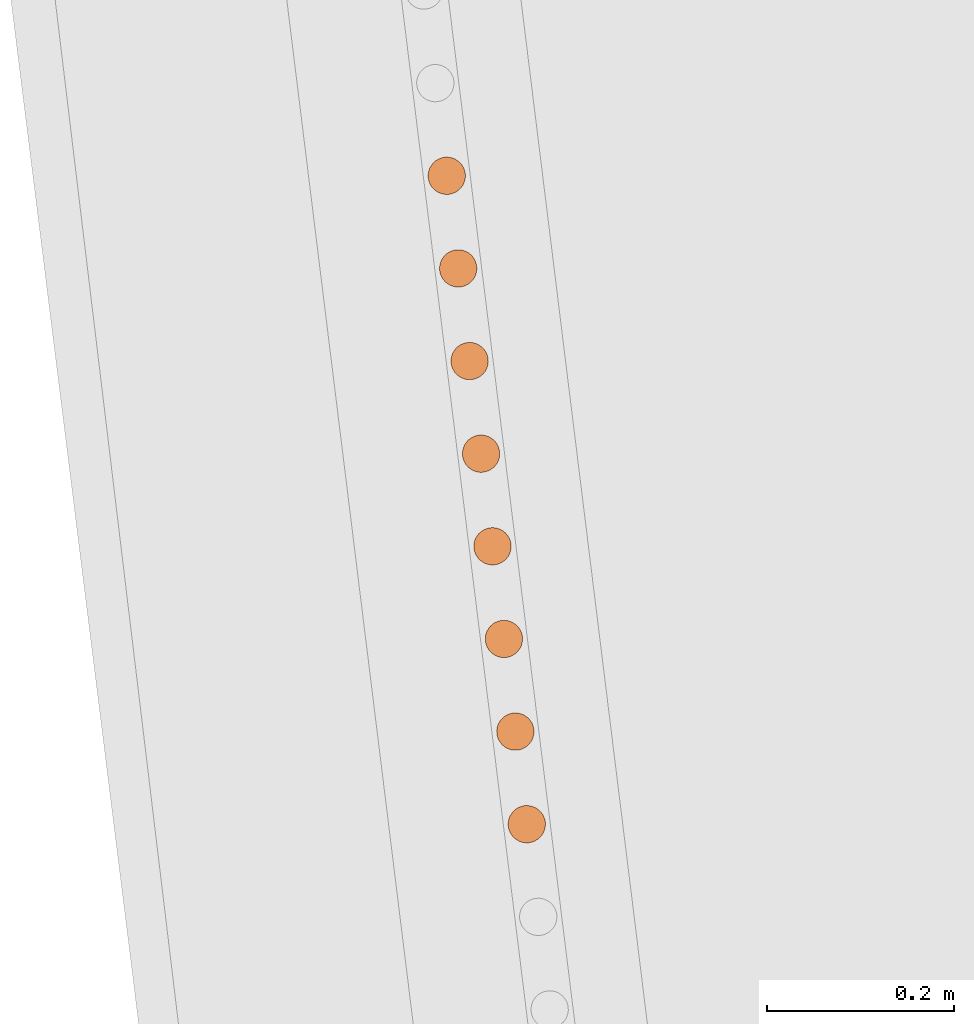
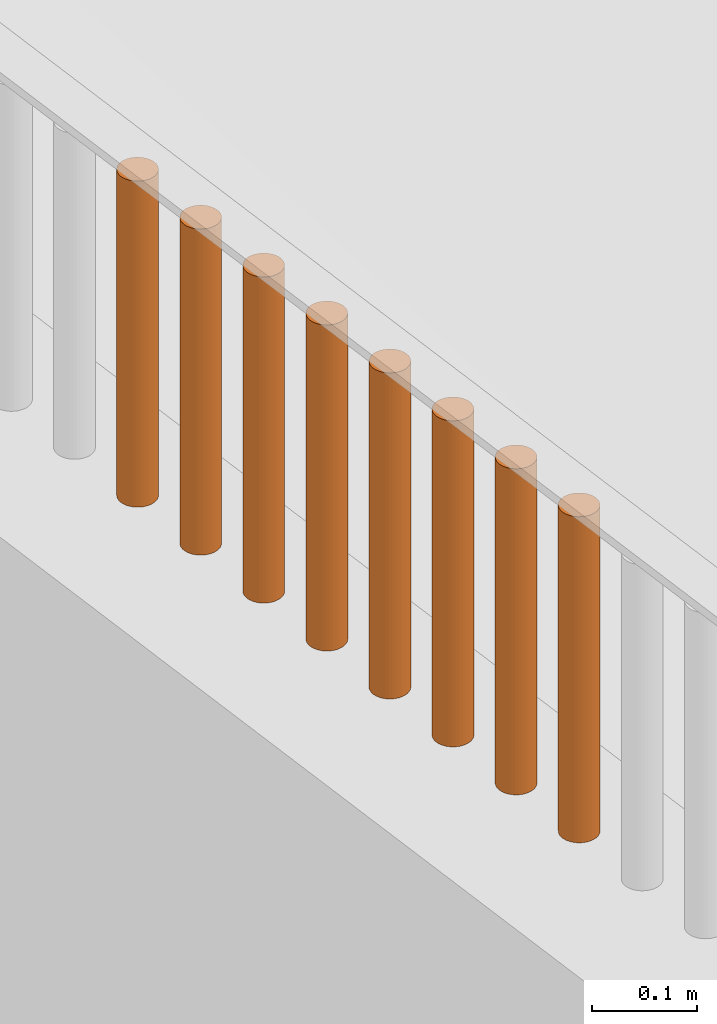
# One storey, part 63 of 1809: 8 proxies, 1 element without a shape of its own.
"""IFC2X3 building model written with IfcOpenShell, lengths in millimetres."""

import ifcopenshell
import ifcopenshell.guid

model = None  # the IFC model being written
_history = None  # IfcOwnerHistory: only IFC2X3 demands one
_inside = {}  # id of a spatial element -> (the spatial element, [elements in it])
_under = {}  # id of a project, library or spatial element -> (it, [spatial elements below it])
_declared = {}  # id of a project -> (the project, [libraries it declares])
_typed = {}  # id of a type object -> (the type object, [elements of that type])
_made_of = {}  # id of a material, layer set ... -> (it, [elements and type objects made of it])


def new_model(schema):
    """Start an empty IFC model of exactly this schema.

    Asked for "IFC4X3", IfcOpenShell would pick the latest addendum, in which some entities
    have other attributes; the version numbers below select the first issue.
    IFC2X3 requires an IfcOwnerHistory on every rooted entity: one is made here for all.
    """
    global model, _history
    if schema == "IFC4X3":
        model = ifcopenshell.file(schema_version=(4, 3, 0, 0))
    else:
        model = ifcopenshell.file(schema=schema)
    _inside.clear()
    _under.clear()
    _declared.clear()
    _typed.clear()
    _made_of.clear()
    _history = None
    if model.schema == "IFC2X3":
        org = make("IfcOrganization", Name="unknown")
        user = make(
            "IfcPersonAndOrganization",
            ThePerson=make("IfcPerson", FamilyName="unknown"),
            TheOrganization=org,
        )
        app = make(
            "IfcApplication",
            ApplicationDeveloper=org,
            Version="unknown",
            ApplicationFullName="unknown",
            ApplicationIdentifier="unknown",
        )
        _history = make(
            "IfcOwnerHistory",
            OwningUser=user,
            OwningApplication=app,
            ChangeAction="ADDED",
            CreationDate=0,
        )
    return model


def make(cls, **values):
    """One entity of the class cls with the attributes given. An attribute that is None is left unset."""
    return model.create_entity(
        cls, **{name: value for name, value in values.items() if value is not None}
    )


def entity(cls, *values):
    """Any entity or typed value of the class cls, its attributes in the order of the schema. None: left unset."""
    e = model.create_entity(cls)
    for i, value in enumerate(values):
        if value is not None:
            e[i] = value
    return e


def rooted(cls, **values):
    """An entity with a GlobalId (a new one), such as an element, a storey or a relation."""
    return make(cls, GlobalId=ifcopenshell.guid.new(), OwnerHistory=_history, **values)


def si_unit(unit_type, name, prefix=None):
    """IfcSIUnit, for example si_unit("LENGTHUNIT", "METRE", prefix="MILLI")."""
    return make("IfcSIUnit", UnitType=unit_type, Prefix=prefix, Name=name)


def converted_unit(unit_type, name, factor, base, dimensions=None, offset=None):
    """IfcConversionBasedUnit, such as the inch: factor (a typed value) times the base unit."""
    return make(
        "IfcConversionBasedUnit"
        if offset is None
        else "IfcConversionBasedUnitWithOffset",
        ConversionOffset=offset,
        Dimensions=None
        if dimensions is None
        else entity("IfcDimensionalExponents", *dimensions),
        UnitType=unit_type,
        Name=name,
        ConversionFactor=make(
            "IfcMeasureWithUnit", ValueComponent=factor, UnitComponent=base
        ),
    )


def derived_unit(unit_type, elements):
    """IfcDerivedUnit: a product of units, each with its exponent."""
    return make(
        "IfcDerivedUnit",
        Elements=[
            make("IfcDerivedUnitElement", Unit=unit, Exponent=power)
            for unit, power in elements
        ],
        UnitType=unit_type,
    )


def money_unit(currency):
    """IfcMonetaryUnit."""
    return make("IfcMonetaryUnit", Currency=currency)


def assignment(units):
    """IfcUnitAssignment: the units of a project."""
    return None if units is None else make("IfcUnitAssignment", Units=units)


def point(xyz):
    """IfcCartesianPoint."""
    return None if xyz is None else make("IfcCartesianPoint", Coordinates=xyz)


def direction(xyz):
    """IfcDirection."""
    return None if xyz is None else make("IfcDirection", DirectionRatios=xyz)


def frame(location, z_axis=None, x_axis=None):
    """IfcAxis2Placement3D, a coordinate frame: its origin and axes. An axis left out is left unset."""
    return make(
        "IfcAxis2Placement3D",
        Location=point(location),
        Axis=direction(z_axis),
        RefDirection=direction(x_axis),
    )


def origin_with_axes():
    """The frame at (0, 0, 0) with the z axis (0, 0, 1) and the x axis (1, 0, 0) written out."""
    return frame((0.0, 0.0, 0.0), z_axis=(0.0, 0.0, 1.0), x_axis=(1.0, 0.0, 0.0))


def place(relative_to, where):
    """IfcLocalPlacement: puts the frame where relative to a parent placement (None: the world)."""
    return make(
        "IfcLocalPlacement", PlacementRelTo=relative_to, RelativePlacement=where
    )


def context(
    kind, dimensions, precision=None, world=None, true_north=None, identifier=None
):
    """IfcGeometricRepresentationContext, for example the 3D "Model" context."""
    return make(
        "IfcGeometricRepresentationContext",
        ContextIdentifier=identifier,
        ContextType=kind,
        CoordinateSpaceDimension=dimensions,
        Precision=precision,
        WorldCoordinateSystem=world,
        TrueNorth=true_north,
    )


def subcontext(parent, identifier, kind, view, scale=None):
    """IfcGeometricRepresentationSubContext, for example "Body" below "Model"."""
    return make(
        "IfcGeometricRepresentationSubContext",
        ContextIdentifier=identifier,
        ContextType=kind,
        ParentContext=parent,
        TargetScale=scale,
        TargetView=view,
    )


def project(units=None, contexts=None):
    """IfcProject with its units and contexts."""
    return rooted(
        "IfcProject",
        Name="project",
        RepresentationContexts=contexts,
        UnitsInContext=assignment(units),
    )


def spatial(cls, under=None, at=None, **own):
    """A site, building, storey or space (cls), placed at a placement, below another one or the project."""
    s = rooted(cls, ObjectPlacement=at, **own)
    if under is not None:
        _under.setdefault(under.id(), (under, []))[1].append(s)
    return s


def faces_of(points, faces, orient=None, outer=None):
    """IfcFace entities. A face is a list of loops; a loop is a list of indices into points, from 0.

    orient and outer hold one flag for each loop. By default every Orientation is true, the
    first loop of a face is its IfcFaceOuterBound and the others are IfcFaceBound.
    """
    made = []
    for i, loops in enumerate(faces):
        bounds = []
        for j, loop in enumerate(loops):
            is_outer = j == 0 if outer is None else outer[i][j]
            bounds.append(
                make(
                    "IfcFaceOuterBound" if is_outer else "IfcFaceBound",
                    Bound=make("IfcPolyLoop", Polygon=[points[k] for k in loop]),
                    Orientation=True if orient is None else orient[i][j],
                )
            )
        made.append(make("IfcFace", Bounds=bounds))
    return made


def faceted_brep(points, faces, orient=None, outer=None, voids=None):
    """IfcFacetedBrep: a solid bounded by flat faces; with voids (closed shells), ...WithVoids."""
    shared = [point(p) for p in points]
    hull = make("IfcClosedShell", CfsFaces=faces_of(shared, faces, orient, outer))
    if voids is None:
        return make("IfcFacetedBrep", Outer=hull)
    return make(
        "IfcFacetedBrepWithVoids",
        Outer=hull,
        Voids=[
            make(cls, CfsFaces=faces_of(shared, fs, o, b)) for cls, fs, o, b in voids
        ],
    )


def shape(context_of_items, identifier, shape_type, items):
    """IfcShapeRepresentation: the items that make up one representation, for example the "Body"."""
    return make(
        "IfcShapeRepresentation",
        ContextOfItems=context_of_items,
        RepresentationIdentifier=identifier,
        RepresentationType=shape_type,
        Items=items,
    )


def source(mapping_origin, context_of_items, identifier, shape_type, items):
    """IfcRepresentationMap: a shape defined once, which mapped items show again and again."""
    return make(
        "IfcRepresentationMap",
        MappingOrigin=mapping_origin,
        MappedRepresentation=shape(context_of_items, identifier, shape_type, items),
    )


def transform(
    local_origin,
    x_axis=None,
    y_axis=None,
    z_axis=None,
    scale=None,
    scale2=None,
    scale3=None,
    uniform=True,
):
    """IfcCartesianTransformationOperator3D, or its non-uniform kind. x_axis, y_axis, z_axis: its Axis1, 2, 3."""
    if uniform:
        return make(
            "IfcCartesianTransformationOperator3D",
            Axis1=direction(x_axis),
            Axis2=direction(y_axis),
            LocalOrigin=point(local_origin),
            Scale=scale,
            Axis3=direction(z_axis),
        )
    return make(
        "IfcCartesianTransformationOperator3DnonUniform",
        Axis1=direction(x_axis),
        Axis2=direction(y_axis),
        LocalOrigin=point(local_origin),
        Scale=scale,
        Axis3=direction(z_axis),
        Scale2=scale2,
        Scale3=scale3,
    )


def mapped(mapping_source, mapping_target):
    """IfcMappedItem: shows the shape of a source again, moved by a transform."""
    return make(
        "IfcMappedItem", MappingSource=mapping_source, MappingTarget=mapping_target
    )


def material(Name=None, Category=None):
    """IfcMaterial."""
    return make("IfcMaterial", Name=Name, Category=Category)


def made_of(thing, what):
    """Note that an element or type object is made of a material, layer set ...; save() writes the relation."""
    if what is not None:
        _made_of.setdefault(what.id(), (what, []))[1].append(thing)
    return thing


def type_object(cls, material=None, **own):
    """A type object (cls), such as IfcWallType, which elements share."""
    return made_of(rooted(cls, **own), material)


def element(
    cls,
    number,
    at=None,
    inside=None,
    cuts=None,
    type_object=None,
    material=None,
    context=None,
    identifier="Body",
    shape_type=None,
    held_by="IfcProductDefinitionShape",
    body=None,
    shapes=None,
    **own,
):
    """One element of the class cls, such as IfcWall. Its Tag is "e" and its number.

    at: its placement. inside: the storey or other place that contains it. cuts: it is an
    opening in that element (IfcRelVoidsElement). A single representation is given by context,
    identifier, shape_type and body (its items); several are given by shapes. held_by: the class
    of the entity that holds the representations. save() writes the other relations.
    """
    e = rooted(cls, Tag="e%d" % number, ObjectPlacement=at, **own)
    if body is not None:
        shapes = [shape(context, identifier, shape_type, body)]
    if shapes is not None:
        e.Representation = make(held_by, Representations=shapes)
    if inside is not None:
        _inside.setdefault(inside.id(), (inside, []))[1].append(e)
    if cuts is not None:
        rooted(
            "IfcRelVoidsElement", RelatingBuildingElement=cuts, RelatedOpeningElement=e
        )
    if type_object is not None:
        _typed.setdefault(type_object.id(), (type_object, []))[1].append(e)
    return made_of(e, material)


def aggregate(whole, parts):
    """IfcRelAggregates: a whole, such as a stair, and the parts it consists of."""
    return rooted("IfcRelAggregates", RelatingObject=whole, RelatedObjects=parts)


def save(model, path):
    """Write the relations noted so far, then the file.

    IfcRelAggregates (storeys below a building ...), IfcRelContainedInSpatialStructure (elements
    in a storey), IfcRelDefinesByType, IfcRelAssociatesMaterial and IfcRelDeclares: one each for
    every whole, place, type object, material and project.
    """
    for whole, parts in _under.values():
        aggregate(whole, parts)
    for where, things in _inside.values():
        rooted(
            "IfcRelContainedInSpatialStructure",
            RelatedElements=things,
            RelatingStructure=where,
        )
    for kind, things in _typed.values():
        rooted("IfcRelDefinesByType", RelatedObjects=things, RelatingType=kind)
    for what, things in _made_of.values():
        rooted("IfcRelAssociatesMaterial", RelatedObjects=things, RelatingMaterial=what)
    for by, libraries in _declared.values():
        rooted("IfcRelDeclares", RelatingContext=by, RelatedDefinitions=libraries)
    model.write(path)


model = new_model("IFC2X3")

# Units and contexts
model_context = context("Model", 3, precision=0.01, world=origin_with_axes(), true_north=direction((0.0, 1.0)))
body_context = subcontext(model_context, "Body", "Model", "MODEL_VIEW")
ifc_project = project(units=[si_unit("LENGTHUNIT", "METRE", prefix="MILLI"), si_unit("AREAUNIT", "SQUARE_METRE"), si_unit("VOLUMEUNIT", "CUBIC_METRE"), converted_unit("PLANEANGLEUNIT", "DEGREE", entity("IfcPlaneAngleMeasure", 0.0174532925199), si_unit("PLANEANGLEUNIT", "RADIAN"), dimensions=[0, 0, 0, 0, 0, 0, 0]), si_unit("SOLIDANGLEUNIT", "STERADIAN"), money_unit("EUR"), converted_unit("TIMEUNIT", "Year", entity("IfcTimeMeasure", 31556926.0), si_unit("TIMEUNIT", "SECOND"), dimensions=[0, 0, 1, 0, 0, 0, 0]), si_unit("MASSUNIT", "GRAM", prefix="KILO"), si_unit("THERMODYNAMICTEMPERATUREUNIT", "DEGREE_CELSIUS"), si_unit("LUMINOUSINTENSITYUNIT", "LUMEN"), si_unit("ENERGYUNIT", "JOULE", prefix="MEGA"), derived_unit("THERMALCONDUCTANCEUNIT", [(si_unit("POWERUNIT", "WATT"), 1), (si_unit("LENGTHUNIT", "METRE"), -1), (si_unit("THERMODYNAMICTEMPERATUREUNIT", "KELVIN"), -1)]), derived_unit("SPECIFICHEATCAPACITYUNIT", [(si_unit("ENERGYUNIT", "JOULE"), 1), (si_unit("MASSUNIT", "GRAM", prefix="KILO"), -1), (si_unit("THERMODYNAMICTEMPERATUREUNIT", "KELVIN"), -1)]), derived_unit("MASSDENSITYUNIT", [(si_unit("MASSUNIT", "GRAM", prefix="KILO"), 1), (si_unit("VOLUMEUNIT", "CUBIC_METRE"), -1)])], contexts=[model_context])

# Site, building, storey
site_placement = place(None, origin_with_axes())
site = spatial("IfcSite", under=ifc_project, at=site_placement, Name="Politse- ja Piirivalveameti ning Päästeameti ühishoone", CompositionType="ELEMENT")
building_placement = place(site_placement, origin_with_axes())
building = spatial("IfcBuilding", under=site, at=building_placement, Name="Politse- ja Piirivalveameti ning Päästeameti ühishoone", CompositionType="ELEMENT")
storey_placement = place(building_placement, origin_with_axes())
storey = spatial("IfcBuildingStorey", under=building, at=storey_placement, Name="Esimene korrus", CompositionType="ELEMENT", Elevation=0.0)

# Proxies
building_element_proxy_type_1 = type_object("IfcBuildingElementProxyType", Name="Railing Type", PredefinedType="NOTDEFINED")
proxy_1_placement = place(storey_placement, frame((-18956.5522504, -53688.4757966, 2100.0), z_axis=(0.0, 0.0, 1.0), x_axis=(1.0, 0.0, 0.0)))
proxy_1 = element("IfcBuildingElementProxy", 1, at=proxy_1_placement, inside=storey, type_object=building_element_proxy_type_1, Name="PIIRDEAED")
ifc_material = material(Name="ET-06_Teras - Konstruktsioon")
building_element_proxy_type_2 = type_object("IfcBuildingElementProxyType", Name="IfcBuildingElementProxy", PredefinedType="NOTDEFINED")
shared_shape_1 = source(origin_with_axes(), body_context, "Body", "Brep", [
    faceted_brep([(0.0, -20.0, 0.0), (3.47296355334, -19.6961550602, 0.0), (3.47296355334, -19.6961550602, 380.000012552), (0.0, -20.0, 380.000012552), (-3.47296355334, -19.6961550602, 0.0), (-6.84040286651, -18.7938524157, 0.0), (-10.0, -17.3205080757, 0.0), (-12.8557521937, -15.3208888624, 0.0), (-15.3208888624, -12.8557521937, 0.0), (-17.3205080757, -10.0, 0.0), (-18.7938524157, -6.84040286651, 0.0), (-19.6961550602, -3.47296355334, 0.0), (-20.0, 0.0, 0.0), (-19.6961550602, 3.47296355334, 0.0), (-18.7938524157, 6.84040286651, 0.0), (-17.3205080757, 10.0, 0.0), (-15.3208888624, 12.8557521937, 0.0), (-12.8557521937, 15.3208888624, 0.0), (-10.0, 17.3205080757, 0.0), (-6.84040286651, 18.7938524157, 0.0), (-3.47296355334, 19.6961550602, 0.0), (0.0, 20.0, 0.0), (3.47296355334, 19.6961550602, 0.0), (6.84040286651, 18.7938524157, 0.0), (10.0, 17.3205080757, 0.0), (12.8557521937, 15.3208888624, 0.0), (15.3208888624, 12.8557521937, 0.0), (17.3205080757, 10.0, 0.0), (18.7938524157, 6.84040286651, 0.0), (19.6961550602, 3.47296355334, 0.0), (20.0, 0.0, 0.0), (19.6961550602, -3.47296355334, 0.0), (18.7938524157, -6.84040286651, 0.0), (17.3205080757, -10.0, 0.0), (15.3208888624, -12.8557521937, 0.0), (12.8557521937, -15.3208888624, 0.0), (10.0, -17.3205080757, 0.0), (6.84040286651, -18.7938524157, 0.0), (6.84040286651, -18.7938524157, 380.000012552), (10.0, -17.3205080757, 380.000012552), (12.8557521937, -15.3208888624, 380.000012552), (15.3208888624, -12.8557521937, 380.000012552), (17.3205080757, -10.0, 380.000012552), (18.7938524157, -6.84040286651, 380.000012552), (19.6961550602, -3.47296355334, 380.000012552), (20.0, 0.0, 380.000012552), (19.6961550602, 3.47296355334, 380.000012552), (18.7938524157, 6.84040286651, 380.000012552), (17.3205080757, 10.0, 380.000012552), (15.3208888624, 12.8557521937, 380.000012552), (12.8557521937, 15.3208888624, 380.000012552), (10.0, 17.3205080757, 380.000012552), (6.84040286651, 18.7938524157, 380.000012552), (3.47296355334, 19.6961550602, 380.000012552), (0.0, 20.0, 380.000012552), (-3.47296355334, 19.6961550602, 380.000012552), (-6.84040286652, 18.7938524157, 380.000012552), (-10.0, 17.3205080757, 380.000012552), (-12.8557521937, 15.3208888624, 380.000012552), (-15.3208888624, 12.8557521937, 380.000012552), (-17.3205080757, 10.0, 380.000012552), (-18.7938524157, 6.84040286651, 380.000012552), (-19.6961550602, 3.47296355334, 380.000012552), (-20.0, 0.0, 380.000012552), (-19.6961550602, -3.47296355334, 380.000012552), (-18.7938524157, -6.84040286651, 380.000012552), (-17.3205080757, -10.0, 380.000012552), (-15.3208888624, -12.8557521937, 380.000012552), (-12.8557521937, -15.3208888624, 380.000012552), (-10.0, -17.3205080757, 380.000012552), (-6.84040286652, -18.7938524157, 380.000012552), (-3.47296355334, -19.6961550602, 380.000012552)], [[[0, 1, 2, 3]], [[0, 4, 5, 6, 7, 8, 9, 10, 11, 12, 13, 14, 15, 16, 17, 18, 19, 20, 21, 22, 23, 24, 25, 26, 27, 28, 29, 30, 31, 32, 33, 34, 35, 36, 37, 1]], [[1, 37, 38, 2]], [[3, 2, 38, 39, 40, 41, 42, 43, 44, 45, 46, 47, 48, 49, 50, 51, 52, 53, 54, 55, 56, 57, 58, 59, 60, 61, 62, 63, 64, 65, 66, 67, 68, 69, 70, 71]], [[4, 0, 3, 71]], [[5, 4, 71, 70]], [[6, 5, 70, 69]], [[7, 6, 69, 68]], [[8, 7, 68, 67]], [[9, 8, 67, 66]], [[10, 9, 66, 65]], [[11, 10, 65, 64]], [[12, 11, 64, 63]], [[13, 12, 63, 62]], [[14, 13, 62, 61]], [[15, 14, 61, 60]], [[16, 15, 60, 59]], [[17, 16, 59, 58]], [[18, 17, 58, 57]], [[19, 18, 57, 56]], [[20, 19, 56, 55]], [[21, 20, 55, 54]], [[22, 21, 54, 53]], [[23, 22, 53, 52]], [[24, 23, 52, 51]], [[25, 24, 51, 50]], [[26, 25, 50, 49]], [[27, 26, 49, 48]], [[28, 27, 48, 47]], [[29, 28, 47, 46]], [[30, 29, 46, 45]], [[31, 30, 45, 44]], [[32, 31, 44, 43]], [[33, 32, 43, 42]], [[34, 33, 42, 41]], [[35, 34, 41, 40]], [[36, 35, 40, 39]], [[37, 36, 39, 38]]]),
])
proxy_2_placement = place(proxy_1_placement, frame((-1342.28874387, 10040.5540505, -1.25517001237e-05), z_axis=(0.0, 0.0, 1.0), x_axis=(1.0, 0.0, 0.0)))
proxy_2 = element("IfcBuildingElementProxy", 2, at=proxy_2_placement, type_object=building_element_proxy_type_2, material=ifc_material, Name="BALUSTER - 001", context=body_context, shape_type="MappedRepresentation", body=[
    mapped(shared_shape_1, transform((0.0, 0.0, 0.0), x_axis=(0.992468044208, 0.122503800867, 0.0), y_axis=(-0.122503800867, 0.992468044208, 0.0), z_axis=(0.0, 0.0, 1.0))),
])
proxy_3_placement = place(proxy_1_placement, frame((-1379.03185861, 10338.2294448, -1.25517001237e-05), z_axis=(0.0, 0.0, 1.0), x_axis=(1.0, 0.0, 0.0)))
proxy_3 = element("IfcBuildingElementProxy", 3, at=proxy_3_placement, type_object=building_element_proxy_type_2, material=ifc_material, Name="BALUSTER - 001", context=body_context, shape_type="MappedRepresentation", body=[
    mapped(shared_shape_1, transform((0.0, 0.0, 0.0), x_axis=(0.992468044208, 0.122503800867, 0.0), y_axis=(-0.122503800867, 0.992468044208, 0.0), z_axis=(0.0, 0.0, 1.0))),
])
shared_shape_2 = source(origin_with_axes(), body_context, "Body", "Brep", [
    faceted_brep([(0.0, -20.0, 0.0), (3.47296355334, -19.6961550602, 0.0), (3.47296355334, -19.6961550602, 380.000012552), (0.0, -20.0, 380.000012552), (-3.47296355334, -19.6961550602, 0.0), (-6.84040286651, -18.7938524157, 0.0), (-10.0, -17.3205080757, 0.0), (-12.8557521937, -15.3208888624, 0.0), (-15.3208888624, -12.8557521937, 0.0), (-17.3205080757, -10.0, 0.0), (-18.7938524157, -6.84040286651, 0.0), (-19.6961550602, -3.47296355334, 0.0), (-20.0, 0.0, 0.0), (-19.6961550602, 3.47296355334, 0.0), (-18.7938524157, 6.84040286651, 0.0), (-17.3205080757, 10.0, 0.0), (-15.3208888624, 12.8557521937, 0.0), (-12.8557521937, 15.3208888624, 0.0), (-10.0, 17.3205080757, 0.0), (-6.84040286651, 18.7938524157, 0.0), (-3.47296355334, 19.6961550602, 0.0), (0.0, 20.0, 0.0), (3.47296355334, 19.6961550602, 0.0), (6.84040286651, 18.7938524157, 0.0), (10.0, 17.3205080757, 0.0), (12.8557521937, 15.3208888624, 0.0), (15.3208888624, 12.8557521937, 0.0), (17.3205080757, 10.0, 0.0), (18.7938524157, 6.84040286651, 0.0), (19.6961550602, 3.47296355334, 0.0), (20.0, 0.0, 0.0), (19.6961550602, -3.47296355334, 0.0), (18.7938524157, -6.84040286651, 0.0), (17.3205080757, -10.0, 0.0), (15.3208888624, -12.8557521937, 0.0), (12.8557521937, -15.3208888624, 0.0), (10.0, -17.3205080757, 0.0), (6.84040286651, -18.7938524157, 0.0), (6.84040286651, -18.7938524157, 380.000012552), (10.0, -17.3205080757, 380.000012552), (12.8557521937, -15.3208888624, 380.000012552), (15.3208888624, -12.8557521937, 380.000012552), (17.3205080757, -9.99999999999, 380.000012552), (18.7938524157, -6.84040286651, 380.000012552), (19.6961550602, -3.47296355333, 380.000012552), (20.0, 0.0, 380.000012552), (19.6961550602, 3.47296355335, 380.000012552), (18.7938524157, 6.84040286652, 380.000012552), (17.3205080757, 10.0, 380.000012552), (15.3208888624, 12.8557521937, 380.000012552), (12.8557521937, 15.3208888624, 380.000012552), (10.0, 17.3205080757, 380.000012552), (6.84040286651, 18.7938524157, 380.000012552), (3.47296355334, 19.6961550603, 380.000012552), (0.0, 20.0, 380.000012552), (-3.47296355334, 19.6961550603, 380.000012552), (-6.84040286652, 18.7938524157, 380.000012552), (-10.0, 17.3205080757, 380.000012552), (-12.8557521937, 15.3208888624, 380.000012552), (-15.3208888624, 12.8557521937, 380.000012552), (-17.3205080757, 10.0, 380.000012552), (-18.7938524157, 6.84040286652, 380.000012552), (-19.6961550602, 3.47296355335, 380.000012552), (-20.0, 0.0, 380.000012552), (-19.6961550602, -3.47296355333, 380.000012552), (-18.7938524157, -6.84040286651, 380.000012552), (-17.3205080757, -9.99999999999, 380.000012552), (-15.3208888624, -12.8557521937, 380.000012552), (-12.8557521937, -15.3208888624, 380.000012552), (-10.0, -17.3205080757, 380.000012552), (-6.84040286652, -18.7938524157, 380.000012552), (-3.47296355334, -19.6961550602, 380.000012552)], [[[0, 1, 2, 3]], [[0, 4, 5, 6, 7, 8, 9, 10, 11, 12, 13, 14, 15, 16, 17, 18, 19, 20, 21, 22, 23, 24, 25, 26, 27, 28, 29, 30, 31, 32, 33, 34, 35, 36, 37, 1]], [[1, 37, 38, 2]], [[3, 2, 38, 39, 40, 41, 42, 43, 44, 45, 46, 47, 48, 49, 50, 51, 52, 53, 54, 55, 56, 57, 58, 59, 60, 61, 62, 63, 64, 65, 66, 67, 68, 69, 70, 71]], [[4, 0, 3, 71]], [[5, 4, 71, 70]], [[6, 5, 70, 69]], [[7, 6, 69, 68]], [[8, 7, 68, 67]], [[9, 8, 67, 66]], [[10, 9, 66, 65]], [[11, 10, 65, 64]], [[12, 11, 64, 63]], [[13, 12, 63, 62]], [[14, 13, 62, 61]], [[15, 14, 61, 60]], [[16, 15, 60, 59]], [[17, 16, 59, 58]], [[18, 17, 58, 57]], [[19, 18, 57, 56]], [[20, 19, 56, 55]], [[21, 20, 55, 54]], [[22, 21, 54, 53]], [[23, 22, 53, 52]], [[24, 23, 52, 51]], [[25, 24, 51, 50]], [[26, 25, 50, 49]], [[27, 26, 49, 48]], [[28, 27, 48, 47]], [[29, 28, 47, 46]], [[30, 29, 46, 45]], [[31, 30, 45, 44]], [[32, 31, 44, 43]], [[33, 32, 43, 42]], [[34, 33, 42, 41]], [[35, 34, 41, 40]], [[36, 35, 40, 39]], [[37, 36, 39, 38]]]),
])
proxy_4_placement = place(proxy_1_placement, frame((-1293.29792422, 9643.65352482, -1.25517001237e-05), z_axis=(0.0, 0.0, 1.0), x_axis=(1.0, 0.0, 0.0)))
proxy_4 = element("IfcBuildingElementProxy", 4, at=proxy_4_placement, type_object=building_element_proxy_type_2, material=ifc_material, Name="BALUSTER - 001", context=body_context, shape_type="MappedRepresentation", body=[
    mapped(shared_shape_2, transform((0.0, 0.0, 0.0), x_axis=(0.992468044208, 0.122503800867, 0.0), y_axis=(-0.122503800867, 0.992468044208, 0.0), z_axis=(0.0, 0.0, 1.0))),
])
shared_shape_3 = source(origin_with_axes(), body_context, "Body", "Brep", [
    faceted_brep([(0.0, -20.0, 0.0), (3.47296355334, -19.6961550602, 0.0), (3.47296355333, -19.6961550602, 380.000012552), (0.0, -20.0, 380.000012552), (-3.47296355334, -19.6961550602, 0.0), (-6.84040286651, -18.7938524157, 0.0), (-10.0, -17.3205080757, 0.0), (-12.8557521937, -15.3208888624, 0.0), (-15.3208888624, -12.8557521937, 0.0), (-17.3205080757, -10.0, 0.0), (-18.7938524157, -6.84040286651, 0.0), (-19.6961550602, -3.47296355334, 0.0), (-20.0, 0.0, 0.0), (-19.6961550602, 3.47296355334, 0.0), (-18.7938524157, 6.84040286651, 0.0), (-17.3205080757, 10.0, 0.0), (-15.3208888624, 12.8557521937, 0.0), (-12.8557521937, 15.3208888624, 0.0), (-10.0, 17.3205080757, 0.0), (-6.84040286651, 18.7938524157, 0.0), (-3.47296355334, 19.6961550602, 0.0), (0.0, 20.0, 0.0), (3.47296355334, 19.6961550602, 0.0), (6.84040286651, 18.7938524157, 0.0), (10.0, 17.3205080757, 0.0), (12.8557521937, 15.3208888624, 0.0), (15.3208888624, 12.8557521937, 0.0), (17.3205080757, 10.0, 0.0), (18.7938524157, 6.84040286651, 0.0), (19.6961550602, 3.47296355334, 0.0), (20.0, 0.0, 0.0), (19.6961550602, -3.47296355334, 0.0), (18.7938524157, -6.84040286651, 0.0), (17.3205080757, -10.0, 0.0), (15.3208888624, -12.8557521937, 0.0), (12.8557521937, -15.3208888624, 0.0), (10.0, -17.3205080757, 0.0), (6.84040286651, -18.7938524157, 0.0), (6.84040286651, -18.7938524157, 380.000012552), (9.99999999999, -17.3205080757, 380.000012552), (12.8557521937, -15.3208888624, 380.000012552), (15.3208888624, -12.8557521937, 380.000012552), (17.3205080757, -10.0, 380.000012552), (18.7938524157, -6.84040286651, 380.000012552), (19.6961550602, -3.47296355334, 380.000012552), (20.0, 0.0, 380.000012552), (19.6961550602, 3.47296355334, 380.000012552), (18.7938524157, 6.84040286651, 380.000012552), (17.3205080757, 10.0, 380.000012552), (15.3208888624, 12.8557521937, 380.000012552), (12.8557521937, 15.3208888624, 380.000012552), (9.99999999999, 17.3205080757, 380.000012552), (6.84040286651, 18.7938524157, 380.000012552), (3.47296355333, 19.6961550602, 380.000012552), (0.0, 20.0, 380.000012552), (-3.47296355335, 19.6961550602, 380.000012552), (-6.84040286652, 18.7938524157, 380.000012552), (-10.0, 17.3205080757, 380.000012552), (-12.8557521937, 15.3208888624, 380.000012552), (-15.3208888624, 12.8557521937, 380.000012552), (-17.3205080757, 10.0, 380.000012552), (-18.7938524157, 6.84040286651, 380.000012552), (-19.6961550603, 3.47296355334, 380.000012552), (-20.0, 0.0, 380.000012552), (-19.6961550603, -3.47296355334, 380.000012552), (-18.7938524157, -6.84040286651, 380.000012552), (-17.3205080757, -10.0, 380.000012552), (-15.3208888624, -12.8557521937, 380.000012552), (-12.8557521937, -15.3208888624, 380.000012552), (-10.0, -17.3205080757, 380.000012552), (-6.84040286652, -18.7938524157, 380.000012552), (-3.47296355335, -19.6961550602, 380.000012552)], [[[0, 1, 2, 3]], [[0, 4, 5, 6, 7, 8, 9, 10, 11, 12, 13, 14, 15, 16, 17, 18, 19, 20, 21, 22, 23, 24, 25, 26, 27, 28, 29, 30, 31, 32, 33, 34, 35, 36, 37, 1]], [[1, 37, 38, 2]], [[3, 2, 38, 39, 40, 41, 42, 43, 44, 45, 46, 47, 48, 49, 50, 51, 52, 53, 54, 55, 56, 57, 58, 59, 60, 61, 62, 63, 64, 65, 66, 67, 68, 69, 70, 71]], [[4, 0, 3, 71]], [[5, 4, 71, 70]], [[6, 5, 70, 69]], [[7, 6, 69, 68]], [[8, 7, 68, 67]], [[9, 8, 67, 66]], [[10, 9, 66, 65]], [[11, 10, 65, 64]], [[12, 11, 64, 63]], [[13, 12, 63, 62]], [[14, 13, 62, 61]], [[15, 14, 61, 60]], [[16, 15, 60, 59]], [[17, 16, 59, 58]], [[18, 17, 58, 57]], [[19, 18, 57, 56]], [[20, 19, 56, 55]], [[21, 20, 55, 54]], [[22, 21, 54, 53]], [[23, 22, 53, 52]], [[24, 23, 52, 51]], [[25, 24, 51, 50]], [[26, 25, 50, 49]], [[27, 26, 49, 48]], [[28, 27, 48, 47]], [[29, 28, 47, 46]], [[30, 29, 46, 45]], [[31, 30, 45, 44]], [[32, 31, 44, 43]], [[33, 32, 43, 42]], [[34, 33, 42, 41]], [[35, 34, 41, 40]], [[36, 35, 40, 39]], [[37, 36, 39, 38]]]),
])
proxy_5_placement = place(proxy_1_placement, frame((-1366.7841537, 10239.0043134, -1.25517001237e-05), z_axis=(0.0, 0.0, 1.0), x_axis=(1.0, 0.0, 0.0)))
proxy_5 = element("IfcBuildingElementProxy", 5, at=proxy_5_placement, type_object=building_element_proxy_type_2, material=ifc_material, Name="BALUSTER - 001", context=body_context, shape_type="MappedRepresentation", body=[
    mapped(shared_shape_3, transform((0.0, 0.0, 0.0), x_axis=(0.992468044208, 0.122503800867, 0.0), y_axis=(-0.122503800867, 0.992468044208, 0.0), z_axis=(0.0, 0.0, 1.0))),
])
shared_shape_4 = source(origin_with_axes(), body_context, "Body", "Brep", [
    faceted_brep([(0.0, -20.0, 0.0), (3.47296355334, -19.6961550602, 0.0), (3.47296355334, -19.6961550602, 380.000012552), (0.0, -20.0, 380.000012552), (-3.47296355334, -19.6961550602, 0.0), (-6.84040286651, -18.7938524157, 0.0), (-10.0, -17.3205080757, 0.0), (-12.8557521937, -15.3208888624, 0.0), (-15.3208888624, -12.8557521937, 0.0), (-17.3205080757, -10.0, 0.0), (-18.7938524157, -6.84040286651, 0.0), (-19.6961550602, -3.47296355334, 0.0), (-20.0, 0.0, 0.0), (-19.6961550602, 3.47296355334, 0.0), (-18.7938524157, 6.84040286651, 0.0), (-17.3205080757, 10.0, 0.0), (-15.3208888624, 12.8557521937, 0.0), (-12.8557521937, 15.3208888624, 0.0), (-10.0, 17.3205080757, 0.0), (-6.84040286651, 18.7938524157, 0.0), (-3.47296355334, 19.6961550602, 0.0), (0.0, 20.0, 0.0), (3.47296355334, 19.6961550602, 0.0), (6.84040286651, 18.7938524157, 0.0), (10.0, 17.3205080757, 0.0), (12.8557521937, 15.3208888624, 0.0), (15.3208888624, 12.8557521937, 0.0), (17.3205080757, 10.0, 0.0), (18.7938524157, 6.84040286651, 0.0), (19.6961550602, 3.47296355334, 0.0), (20.0, 0.0, 0.0), (19.6961550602, -3.47296355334, 0.0), (18.7938524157, -6.84040286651, 0.0), (17.3205080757, -10.0, 0.0), (15.3208888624, -12.8557521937, 0.0), (12.8557521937, -15.3208888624, 0.0), (10.0, -17.3205080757, 0.0), (6.84040286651, -18.7938524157, 0.0), (6.84040286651, -18.7938524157, 380.000012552), (10.0, -17.3205080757, 380.000012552), (12.8557521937, -15.3208888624, 380.000012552), (15.3208888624, -12.8557521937, 380.000012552), (17.3205080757, -10.0, 380.000012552), (18.7938524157, -6.84040286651, 380.000012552), (19.6961550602, -3.47296355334, 380.000012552), (20.0, 0.0, 380.000012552), (19.6961550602, 3.47296355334, 380.000012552), (18.7938524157, 6.84040286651, 380.000012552), (17.3205080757, 10.0, 380.000012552), (15.3208888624, 12.8557521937, 380.000012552), (12.8557521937, 15.3208888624, 380.000012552), (10.0, 17.3205080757, 380.000012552), (6.84040286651, 18.7938524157, 380.000012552), (3.47296355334, 19.6961550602, 380.000012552), (0.0, 20.0, 380.000012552), (-3.47296355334, 19.6961550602, 380.000012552), (-6.84040286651, 18.7938524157, 380.000012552), (-10.0, 17.3205080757, 380.000012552), (-12.8557521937, 15.3208888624, 380.000012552), (-15.3208888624, 12.8557521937, 380.000012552), (-17.3205080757, 10.0, 380.000012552), (-18.7938524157, 6.84040286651, 380.000012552), (-19.6961550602, 3.47296355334, 380.000012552), (-20.0, 0.0, 380.000012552), (-19.6961550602, -3.47296355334, 380.000012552), (-18.7938524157, -6.84040286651, 380.000012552), (-17.3205080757, -10.0, 380.000012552), (-15.3208888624, -12.8557521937, 380.000012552), (-12.8557521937, -15.3208888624, 380.000012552), (-10.0, -17.3205080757, 380.000012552), (-6.84040286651, -18.7938524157, 380.000012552), (-3.47296355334, -19.6961550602, 380.000012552)], [[[0, 1, 2, 3]], [[0, 4, 5, 6, 7, 8, 9, 10, 11, 12, 13, 14, 15, 16, 17, 18, 19, 20, 21, 22, 23, 24, 25, 26, 27, 28, 29, 30, 31, 32, 33, 34, 35, 36, 37, 1]], [[1, 37, 38, 2]], [[3, 2, 38, 39, 40, 41, 42, 43, 44, 45, 46, 47, 48, 49, 50, 51, 52, 53, 54, 55, 56, 57, 58, 59, 60, 61, 62, 63, 64, 65, 66, 67, 68, 69, 70, 71]], [[4, 0, 3, 71]], [[5, 4, 71, 70]], [[6, 5, 70, 69]], [[7, 6, 69, 68]], [[8, 7, 68, 67]], [[9, 8, 67, 66]], [[10, 9, 66, 65]], [[11, 10, 65, 64]], [[12, 11, 64, 63]], [[13, 12, 63, 62]], [[14, 13, 62, 61]], [[15, 14, 61, 60]], [[16, 15, 60, 59]], [[17, 16, 59, 58]], [[18, 17, 58, 57]], [[19, 18, 57, 56]], [[20, 19, 56, 55]], [[21, 20, 55, 54]], [[22, 21, 54, 53]], [[23, 22, 53, 52]], [[24, 23, 52, 51]], [[25, 24, 51, 50]], [[26, 25, 50, 49]], [[27, 26, 49, 48]], [[28, 27, 48, 47]], [[29, 28, 47, 46]], [[30, 29, 46, 45]], [[31, 30, 45, 44]], [[32, 31, 44, 43]], [[33, 32, 43, 42]], [[34, 33, 42, 41]], [[35, 34, 41, 40]], [[36, 35, 40, 39]], [[37, 36, 39, 38]]]),
])
proxy_6_placement = place(proxy_1_placement, frame((-1317.79333404, 9842.10378767, -1.25517001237e-05), z_axis=(0.0, 0.0, 1.0), x_axis=(1.0, 0.0, 0.0)))
proxy_6 = element("IfcBuildingElementProxy", 6, at=proxy_6_placement, type_object=building_element_proxy_type_2, material=ifc_material, Name="BALUSTER - 001", context=body_context, shape_type="MappedRepresentation", body=[
    mapped(shared_shape_4, transform((0.0, 0.0, 0.0), x_axis=(0.992468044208, 0.122503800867, 0.0), y_axis=(-0.122503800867, 0.992468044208, 0.0), z_axis=(0.0, 0.0, 1.0))),
])
shared_shape_5 = source(origin_with_axes(), body_context, "Body", "Brep", [
    faceted_brep([(0.0, -20.0, 0.0), (3.47296355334, -19.6961550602, 0.0), (3.47296355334, -19.6961550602, 380.000012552), (0.0, -20.0, 380.000012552), (-3.47296355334, -19.6961550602, 0.0), (-6.84040286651, -18.7938524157, 0.0), (-10.0, -17.3205080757, 0.0), (-12.8557521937, -15.3208888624, 0.0), (-15.3208888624, -12.8557521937, 0.0), (-17.3205080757, -10.0, 0.0), (-18.7938524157, -6.84040286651, 0.0), (-19.6961550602, -3.47296355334, 0.0), (-20.0, 0.0, 0.0), (-19.6961550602, 3.47296355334, 0.0), (-18.7938524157, 6.84040286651, 0.0), (-17.3205080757, 10.0, 0.0), (-15.3208888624, 12.8557521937, 0.0), (-12.8557521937, 15.3208888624, 0.0), (-10.0, 17.3205080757, 0.0), (-6.84040286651, 18.7938524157, 0.0), (-3.47296355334, 19.6961550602, 0.0), (0.0, 20.0, 0.0), (3.47296355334, 19.6961550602, 0.0), (6.84040286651, 18.7938524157, 0.0), (10.0, 17.3205080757, 0.0), (12.8557521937, 15.3208888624, 0.0), (15.3208888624, 12.8557521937, 0.0), (17.3205080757, 10.0, 0.0), (18.7938524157, 6.84040286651, 0.0), (19.6961550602, 3.47296355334, 0.0), (20.0, 0.0, 0.0), (19.6961550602, -3.47296355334, 0.0), (18.7938524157, -6.84040286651, 0.0), (17.3205080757, -10.0, 0.0), (15.3208888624, -12.8557521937, 0.0), (12.8557521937, -15.3208888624, 0.0), (10.0, -17.3205080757, 0.0), (6.84040286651, -18.7938524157, 0.0), (6.84040286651, -18.7938524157, 380.000012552), (10.0, -17.3205080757, 380.000012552), (12.8557521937, -15.3208888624, 380.000012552), (15.3208888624, -12.8557521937, 380.000012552), (17.3205080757, -9.99999999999, 380.000012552), (18.7938524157, -6.84040286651, 380.000012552), (19.6961550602, -3.47296355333, 380.000012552), (20.0, 0.0, 380.000012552), (19.6961550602, 3.47296355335, 380.000012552), (18.7938524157, 6.84040286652, 380.000012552), (17.3205080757, 10.0, 380.000012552), (15.3208888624, 12.8557521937, 380.000012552), (12.8557521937, 15.3208888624, 380.000012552), (10.0, 17.3205080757, 380.000012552), (6.84040286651, 18.7938524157, 380.000012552), (3.47296355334, 19.6961550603, 380.000012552), (0.0, 20.0, 380.000012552), (-3.47296355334, 19.6961550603, 380.000012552), (-6.84040286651, 18.7938524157, 380.000012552), (-10.0, 17.3205080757, 380.000012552), (-12.8557521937, 15.3208888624, 380.000012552), (-15.3208888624, 12.8557521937, 380.000012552), (-17.3205080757, 10.0, 380.000012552), (-18.7938524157, 6.84040286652, 380.000012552), (-19.6961550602, 3.47296355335, 380.000012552), (-20.0, 0.0, 380.000012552), (-19.6961550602, -3.47296355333, 380.000012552), (-18.7938524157, -6.84040286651, 380.000012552), (-17.3205080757, -9.99999999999, 380.000012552), (-15.3208888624, -12.8557521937, 380.000012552), (-12.8557521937, -15.3208888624, 380.000012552), (-10.0, -17.3205080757, 380.000012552), (-6.84040286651, -18.7938524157, 380.000012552), (-3.47296355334, -19.6961550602, 380.000012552)], [[[0, 1, 2, 3]], [[0, 4, 5, 6, 7, 8, 9, 10, 11, 12, 13, 14, 15, 16, 17, 18, 19, 20, 21, 22, 23, 24, 25, 26, 27, 28, 29, 30, 31, 32, 33, 34, 35, 36, 37, 1]], [[1, 37, 38, 2]], [[3, 2, 38, 39, 40, 41, 42, 43, 44, 45, 46, 47, 48, 49, 50, 51, 52, 53, 54, 55, 56, 57, 58, 59, 60, 61, 62, 63, 64, 65, 66, 67, 68, 69, 70, 71]], [[4, 0, 3, 71]], [[5, 4, 71, 70]], [[6, 5, 70, 69]], [[7, 6, 69, 68]], [[8, 7, 68, 67]], [[9, 8, 67, 66]], [[10, 9, 66, 65]], [[11, 10, 65, 64]], [[12, 11, 64, 63]], [[13, 12, 63, 62]], [[14, 13, 62, 61]], [[15, 14, 61, 60]], [[16, 15, 60, 59]], [[17, 16, 59, 58]], [[18, 17, 58, 57]], [[19, 18, 57, 56]], [[20, 19, 56, 55]], [[21, 20, 55, 54]], [[22, 21, 54, 53]], [[23, 22, 53, 52]], [[24, 23, 52, 51]], [[25, 24, 51, 50]], [[26, 25, 50, 49]], [[27, 26, 49, 48]], [[28, 27, 48, 47]], [[29, 28, 47, 46]], [[30, 29, 46, 45]], [[31, 30, 45, 44]], [[32, 31, 44, 43]], [[33, 32, 43, 42]], [[34, 33, 42, 41]], [[35, 34, 41, 40]], [[36, 35, 40, 39]], [[37, 36, 39, 38]]]),
])
proxy_7_placement = place(proxy_1_placement, frame((-1354.53644878, 10139.779182, -1.25517001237e-05), z_axis=(0.0, 0.0, 1.0), x_axis=(1.0, 0.0, 0.0)))
proxy_7 = element("IfcBuildingElementProxy", 7, at=proxy_7_placement, type_object=building_element_proxy_type_2, material=ifc_material, Name="BALUSTER - 001", context=body_context, shape_type="MappedRepresentation", body=[
    mapped(shared_shape_5, transform((0.0, 0.0, 0.0), x_axis=(0.992468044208, 0.122503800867, 0.0), y_axis=(-0.122503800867, 0.992468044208, 0.0), z_axis=(0.0, 0.0, 1.0))),
])
shared_shape_6 = source(origin_with_axes(), body_context, "Body", "Brep", [
    faceted_brep([(0.0, -20.0, 0.0), (3.47296355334, -19.6961550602, 0.0), (3.47296355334, -19.6961550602, 380.000012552), (0.0, -20.0, 380.000012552), (-3.47296355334, -19.6961550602, 0.0), (-6.84040286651, -18.7938524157, 0.0), (-10.0, -17.3205080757, 0.0), (-12.8557521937, -15.3208888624, 0.0), (-15.3208888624, -12.8557521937, 0.0), (-17.3205080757, -10.0, 0.0), (-18.7938524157, -6.84040286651, 0.0), (-19.6961550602, -3.47296355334, 0.0), (-20.0, 0.0, 0.0), (-19.6961550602, 3.47296355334, 0.0), (-18.7938524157, 6.84040286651, 0.0), (-17.3205080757, 10.0, 0.0), (-15.3208888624, 12.8557521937, 0.0), (-12.8557521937, 15.3208888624, 0.0), (-10.0, 17.3205080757, 0.0), (-6.84040286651, 18.7938524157, 0.0), (-3.47296355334, 19.6961550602, 0.0), (0.0, 20.0, 0.0), (3.47296355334, 19.6961550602, 0.0), (6.84040286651, 18.7938524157, 0.0), (10.0, 17.3205080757, 0.0), (12.8557521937, 15.3208888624, 0.0), (15.3208888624, 12.8557521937, 0.0), (17.3205080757, 10.0, 0.0), (18.7938524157, 6.84040286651, 0.0), (19.6961550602, 3.47296355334, 0.0), (20.0, 0.0, 0.0), (19.6961550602, -3.47296355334, 0.0), (18.7938524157, -6.84040286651, 0.0), (17.3205080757, -10.0, 0.0), (15.3208888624, -12.8557521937, 0.0), (12.8557521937, -15.3208888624, 0.0), (10.0, -17.3205080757, 0.0), (6.84040286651, -18.7938524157, 0.0), (6.84040286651, -18.7938524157, 380.000012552), (10.0, -17.3205080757, 380.000012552), (12.8557521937, -15.3208888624, 380.000012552), (15.3208888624, -12.8557521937, 380.000012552), (17.3205080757, -10.0, 380.000012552), (18.7938524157, -6.84040286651, 380.000012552), (19.6961550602, -3.47296355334, 380.000012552), (20.0, 0.0, 380.000012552), (19.6961550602, 3.47296355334, 380.000012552), (18.7938524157, 6.84040286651, 380.000012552), (17.3205080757, 10.0, 380.000012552), (15.3208888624, 12.8557521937, 380.000012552), (12.8557521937, 15.3208888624, 380.000012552), (10.0, 17.3205080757, 380.000012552), (6.84040286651, 18.7938524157, 380.000012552), (3.47296355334, 19.6961550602, 380.000012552), (0.0, 20.0, 380.000012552), (-3.47296355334, 19.6961550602, 380.000012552), (-6.84040286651, 18.7938524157, 380.000012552), (-10.0, 17.3205080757, 380.000012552), (-12.8557521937, 15.3208888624, 380.000012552), (-15.3208888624, 12.8557521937, 380.000012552), (-17.3205080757, 10.0, 380.000012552), (-18.7938524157, 6.84040286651, 380.000012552), (-19.6961550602, 3.47296355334, 380.000012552), (-20.0, 0.0, 380.000012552), (-19.6961550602, -3.47296355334, 380.000012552), (-18.7938524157, -6.84040286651, 380.000012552), (-17.3205080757, -10.0, 380.000012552), (-15.3208888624, -12.8557521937, 380.000012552), (-12.8557521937, -15.3208888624, 380.000012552), (-10.0, -17.3205080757, 380.000012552), (-6.84040286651, -18.7938524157, 380.000012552), (-3.47296355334, -19.6961550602, 380.000012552)], [[[0, 1, 2, 3]], [[0, 4, 5, 6, 7, 8, 9, 10, 11, 12, 13, 14, 15, 16, 17, 18, 19, 20, 21, 22, 23, 24, 25, 26, 27, 28, 29, 30, 31, 32, 33, 34, 35, 36, 37, 1]], [[1, 37, 38, 2]], [[3, 2, 38, 39, 40, 41, 42, 43, 44, 45, 46, 47, 48, 49, 50, 51, 52, 53, 54, 55, 56, 57, 58, 59, 60, 61, 62, 63, 64, 65, 66, 67, 68, 69, 70, 71]], [[4, 0, 3, 71]], [[5, 4, 71, 70]], [[6, 5, 70, 69]], [[7, 6, 69, 68]], [[8, 7, 68, 67]], [[9, 8, 67, 66]], [[10, 9, 66, 65]], [[11, 10, 65, 64]], [[12, 11, 64, 63]], [[13, 12, 63, 62]], [[14, 13, 62, 61]], [[15, 14, 61, 60]], [[16, 15, 60, 59]], [[17, 16, 59, 58]], [[18, 17, 58, 57]], [[19, 18, 57, 56]], [[20, 19, 56, 55]], [[21, 20, 55, 54]], [[22, 21, 54, 53]], [[23, 22, 53, 52]], [[24, 23, 52, 51]], [[25, 24, 51, 50]], [[26, 25, 50, 49]], [[27, 26, 49, 48]], [[28, 27, 48, 47]], [[29, 28, 47, 46]], [[30, 29, 46, 45]], [[31, 30, 45, 44]], [[32, 31, 44, 43]], [[33, 32, 43, 42]], [[34, 33, 42, 41]], [[35, 34, 41, 40]], [[36, 35, 40, 39]], [[37, 36, 39, 38]]]),
])
proxy_8_placement = place(proxy_1_placement, frame((-1305.54562913, 9742.87865625, -1.25517001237e-05), z_axis=(0.0, 0.0, 1.0), x_axis=(1.0, 0.0, 0.0)))
proxy_8 = element("IfcBuildingElementProxy", 8, at=proxy_8_placement, type_object=building_element_proxy_type_2, material=ifc_material, Name="BALUSTER - 001", context=body_context, shape_type="MappedRepresentation", body=[
    mapped(shared_shape_6, transform((0.0, 0.0, 0.0), x_axis=(0.992468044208, 0.122503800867, 0.0), y_axis=(-0.122503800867, 0.992468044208, 0.0), z_axis=(0.0, 0.0, 1.0))),
])
proxy_9_placement = place(proxy_1_placement, frame((-1330.04103896, 9941.3289191, -1.25517001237e-05), z_axis=(0.0, 0.0, 1.0), x_axis=(1.0, 0.0, 0.0)))
proxy_9 = element("IfcBuildingElementProxy", 9, at=proxy_9_placement, type_object=building_element_proxy_type_2, material=ifc_material, Name="BALUSTER - 001", context=body_context, shape_type="MappedRepresentation", body=[
    mapped(shared_shape_6, transform((0.0, 0.0, 0.0), x_axis=(0.992468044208, 0.122503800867, 0.0), y_axis=(-0.122503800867, 0.992468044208, 0.0), z_axis=(0.0, 0.0, 1.0))),
])
aggregate(proxy_1, [proxy_4, proxy_8, proxy_6, proxy_9, proxy_2, proxy_7, proxy_5, proxy_3])

save(model, "model.ifc")
